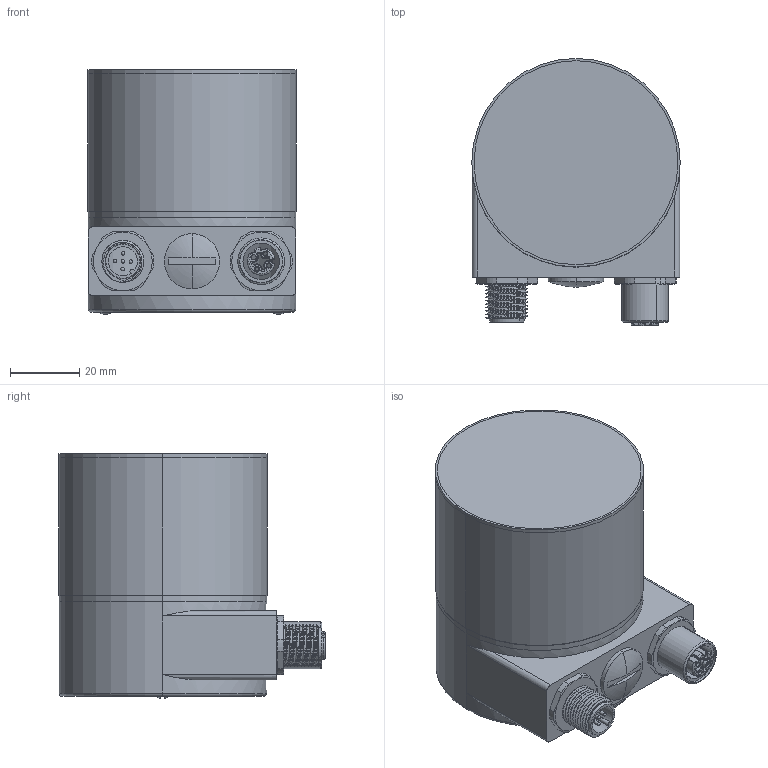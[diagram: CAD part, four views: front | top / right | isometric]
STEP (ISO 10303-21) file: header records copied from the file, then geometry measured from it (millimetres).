
FILE_DESCRIPTION (( 'STEP AP203' ), '1' );
FILE_NAME ('Drawing-OC-6-TC-430-2NM-HCCNNN-Y-H2B-N-new version.STEP', '2013-09-24T09:46:46', ( 'Admin' ), ( 'Microsoft' ), 'SwSTEP 2.0', 'SolidWorks 2006104', '' );
FILE_SCHEMA (( 'CONFIG_CONTROL_DESIGN' ));
Length unit declared in the file: millimetre
Products named in the file (1): Drawing-OC-6-TC-430-2NM-HCCNNN-Y-H2B-N-new version
Bounding box: 60.3 x 77.15 x 70.8 mm (x, y, z)
Surface area: 38158.5 mm2 (no closed solid volume)
Topology: 0 solids, 20 shells, 274 faces, 773 edges, 520 vertices
Faces by surface type: cylinder 117, plane 69, cone 57, bspline 16, torus 10, sphere 5
Entity records: 11943 total; most frequent: CARTESIAN_POINT 5228, DIRECTION 1363, ORIENTED_EDGE 1307, EDGE_CURVE 753, AXIS2_PLACEMENT_3D 546, VERTEX_POINT 510, EDGE_LOOP 315, CIRCLE 287
